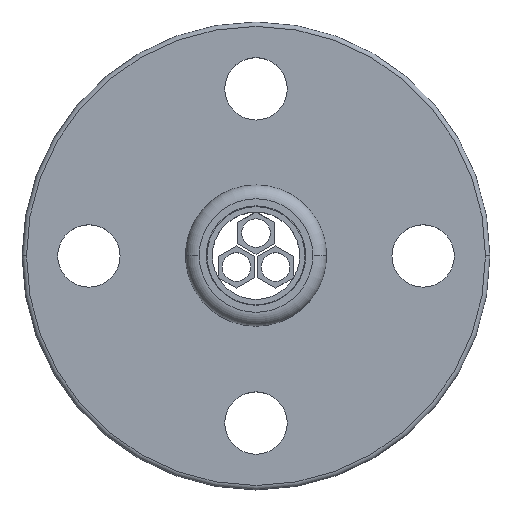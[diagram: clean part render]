
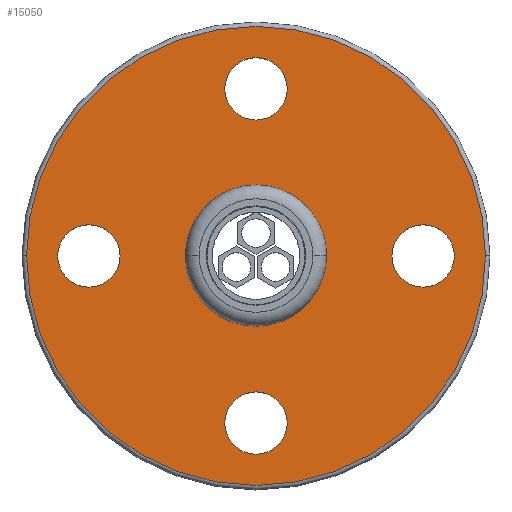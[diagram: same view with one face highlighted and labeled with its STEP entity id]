
A CAD part, top view. The second image highlights one B-rep face of the part: STEP entity #15050.
In plain terms, the highlighted planar face has unit normal (0, 0, 1) as drawn and (0, 1, 0) by its records, which use the part's own axes.
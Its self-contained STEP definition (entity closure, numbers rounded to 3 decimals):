
#13820=CARTESIAN_POINT('',(-308.291,13.435,
0.));
#13830=VERTEX_POINT('',#13820);
#13910=CARTESIAN_POINT('',(-330.291,13.435,0.));
#13920=VERTEX_POINT('',#13910);
#13950=CARTESIAN_POINT('',(-319.291,13.435,0.));
#13960=DIRECTION('',(0.,1.,0.));
#13970=DIRECTION('',(1.,0.,0.));
#13980=AXIS2_PLACEMENT_3D('',#13950,#13960,#13970);
#13990=CIRCLE('',#13980,11.);
#14000=EDGE_CURVE('',#13830,#13920,#13990,.T.);
#14100=EDGE_CURVE('',#13920,#13830,#13990,.T.);
#14210=CARTESIAN_POINT('',(-367.867,13.435,51.424)
);
#14220=DIRECTION('',(-0.,1.,0.));
#14230=DIRECTION('',(1.,0.,0.));
#14240=AXIS2_PLACEMENT_3D('',#14210,#14220,#14230);
#14250=PLANE('',#14240);
#14260=CARTESIAN_POINT('',(-319.291,13.435,37.5));
#14270=DIRECTION('',(0.,1.,0.));
#14280=DIRECTION('',(-1.,0.,0.));
#14290=AXIS2_PLACEMENT_3D('',#14260,#14270,#14280);
#14300=CIRCLE('',#14290,7.);
#14310=CARTESIAN_POINT('',(-326.291,13.435,37.5));
#14320=VERTEX_POINT('',#14310);
#14330=CARTESIAN_POINT('',(-312.291,13.435,37.5));
#14340=VERTEX_POINT('',#14330);
#14350=EDGE_CURVE('',#14320,#14340,#14300,.T.);
#14360=ORIENTED_EDGE('',*,*,#14350,.F.);
#14370=EDGE_CURVE('',#14340,#14320,#14300,.T.);
#14380=ORIENTED_EDGE('',*,*,#14370,.F.);
#14390=EDGE_LOOP('',(#14380,#14360));
#14400=FACE_BOUND('',#14390,.T.);
#14410=ORIENTED_EDGE('',*,*,#14000,.F.);
#14420=ORIENTED_EDGE('',*,*,#14100,.F.);
#14430=EDGE_LOOP('',(#14420,#14410));
#14440=FACE_BOUND('',#14430,.T.);
#14450=CARTESIAN_POINT('',(-281.791,13.435,0.));
#14460=DIRECTION('',(0.,1.,0.));
#14470=DIRECTION('',(0.,0.,1.));
#14480=AXIS2_PLACEMENT_3D('',#14450,#14460,#14470);
#14490=CIRCLE('',#14480,7.);
#14500=CARTESIAN_POINT('',(-281.791,13.435,7.));
#14510=VERTEX_POINT('',#14500);
#14520=CARTESIAN_POINT('',(-281.791,13.435,-7.));
#14530=VERTEX_POINT('',#14520);
#14540=EDGE_CURVE('',#14510,#14530,#14490,.T.);
#14550=ORIENTED_EDGE('',*,*,#14540,.F.);
#14560=EDGE_CURVE('',#14530,#14510,#14490,.T.);
#14570=ORIENTED_EDGE('',*,*,#14560,.F.);
#14580=EDGE_LOOP('',(#14570,#14550));
#14590=FACE_BOUND('',#14580,.T.);
#14600=CARTESIAN_POINT('',(-356.791,13.435,0.));
#14610=DIRECTION('',(0.,1.,0.));
#14620=DIRECTION('',(0.,0.,-1.));
#14630=AXIS2_PLACEMENT_3D('',#14600,#14610,#14620);
#14640=CIRCLE('',#14630,7.);
#14650=CARTESIAN_POINT('',(-356.791,13.435,-7.));
#14660=VERTEX_POINT('',#14650);
#14670=CARTESIAN_POINT('',(-356.791,13.435,7.));
#14680=VERTEX_POINT('',#14670);
#14690=EDGE_CURVE('',#14660,#14680,#14640,.T.);
#14700=ORIENTED_EDGE('',*,*,#14690,.F.);
#14710=EDGE_CURVE('',#14680,#14660,#14640,.T.);
#14720=ORIENTED_EDGE('',*,*,#14710,.F.);
#14730=EDGE_LOOP('',(#14720,#14700));
#14740=FACE_BOUND('',#14730,.T.);
#14750=CARTESIAN_POINT('',(-319.291,13.435,-37.5));
#14760=DIRECTION('',(0.,1.,0.));
#14770=DIRECTION('',(1.,0.,0.));
#14780=AXIS2_PLACEMENT_3D('',#14750,#14760,#14770);
#14790=CIRCLE('',#14780,7.);
#14800=CARTESIAN_POINT('',(-312.291,13.435,-37.5));
#14810=VERTEX_POINT('',#14800);
#14820=CARTESIAN_POINT('',(-326.291,13.435,-37.5));
#14830=VERTEX_POINT('',#14820);
#14840=EDGE_CURVE('',#14810,#14830,#14790,.T.);
#14850=ORIENTED_EDGE('',*,*,#14840,.F.);
#14860=EDGE_CURVE('',#14830,#14810,#14790,.T.);
#14870=ORIENTED_EDGE('',*,*,#14860,.F.);
#14880=EDGE_LOOP('',(#14870,#14850));
#14890=FACE_BOUND('',#14880,.T.);
#14900=CARTESIAN_POINT('',(-319.291,13.435,0.));
#14910=DIRECTION('',(0.,1.,0.));
#14920=DIRECTION('',(1.,0.,0.));
#14930=AXIS2_PLACEMENT_3D('',#14900,#14910,#14920);
#14940=CIRCLE('',#14930,51.5);
#14950=CARTESIAN_POINT('',(-267.791,13.435,0.));
#14960=VERTEX_POINT('',#14950);
#14970=CARTESIAN_POINT('',(-370.791,13.435,0.));
#14980=VERTEX_POINT('',#14970);
#14990=EDGE_CURVE('',#14960,#14980,#14940,.T.);
#15000=ORIENTED_EDGE('',*,*,#14990,.T.);
#15010=EDGE_CURVE('',#14980,#14960,#14940,.T.);
#15020=ORIENTED_EDGE('',*,*,#15010,.T.);
#15030=EDGE_LOOP('',(#15020,#15000));
#15040=FACE_OUTER_BOUND('',#15030,.T.);
#15050=ADVANCED_FACE('',(#14400,#14440,#14590,#14740,#14890,#15040),
#14250,.T.);
